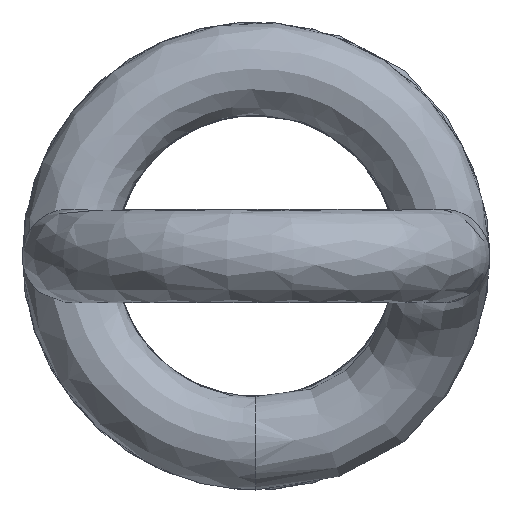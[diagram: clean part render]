
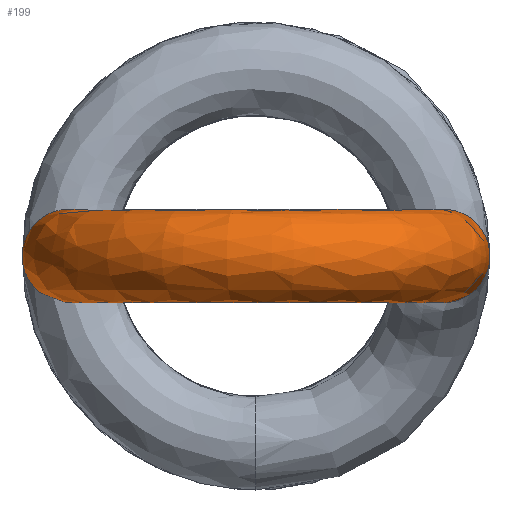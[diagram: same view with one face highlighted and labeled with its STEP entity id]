
A CAD part, front view. The second image highlights one B-rep face of the part: STEP entity #199.
In plain terms, the highlighted free-form (B-spline) face has degree [2, 2] with [9, 7] control points.
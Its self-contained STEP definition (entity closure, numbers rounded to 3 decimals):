
#15=(
BOUNDED_SURFACE()
B_SPLINE_SURFACE(2,2,((#798,#799,#800,#801,#802,#803,#804),(#805,#806,#807,
#808,#809,#810,#811),(#812,#813,#814,#815,#816,#817,#818),(#819,#820,#821,
#822,#823,#824,#825),(#826,#827,#828,#829,#830,#831,#832),(#833,#834,#835,
#836,#837,#838,#839),(#840,#841,#842,#843,#844,#845,#846),(#847,#848,#849,
#850,#851,#852,#853),(#854,#855,#856,#857,#858,#859,#860)),
 .UNSPECIFIED.,.T.,.F.,.F.)
B_SPLINE_SURFACE_WITH_KNOTS((3,2,2,2,3),(3,2,2,3),(0.,1.571,3.142,
4.712,6.283),(0.,1.131,2.261,
3.392),.UNSPECIFIED.)
GEOMETRIC_REPRESENTATION_ITEM()
RATIONAL_B_SPLINE_SURFACE(((1.,0.844,1.,0.844,1.,
0.844,1.),(0.707,0.597,0.707,
0.597,0.707,0.597,0.707),
(1.,0.844,1.,0.844,1.,0.844,1.),(0.707,
0.597,0.707,0.597,0.707,0.597,
0.707),(1.,0.844,1.,0.844,1.,0.844,
1.),(0.707,0.597,0.707,0.597,
0.707,0.597,0.707),(1.,0.844,
1.,0.844,1.,0.844,1.),(0.707,0.597,
0.707,0.597,0.707,0.597,
0.707),(1.,0.844,1.,0.844,1.,0.844,
1.)))
REPRESENTATION_ITEM('')
SURFACE()
);
#22=CIRCLE('',#234,1.);
#23=CIRCLE('',#235,3.574);
#24=CIRCLE('',#236,1.);
#37=FACE_OUTER_BOUND('',#48,.T.);
#48=EDGE_LOOP('',(#142,#143,#144,#145));
#85=VERTEX_POINT('',#729);
#88=VERTEX_POINT('',#861);
#106=EDGE_CURVE('',#85,#85,#22,.T.);
#109=EDGE_CURVE('',#85,#88,#23,.T.);
#110=EDGE_CURVE('',#88,#88,#24,.T.);
#142=ORIENTED_EDGE('',*,*,#106,.T.);
#143=ORIENTED_EDGE('',*,*,#109,.T.);
#144=ORIENTED_EDGE('',*,*,#110,.F.);
#145=ORIENTED_EDGE('',*,*,#109,.F.);
#199=ADVANCED_FACE('',(#37),#15,.T.);
#234=AXIS2_PLACEMENT_3D('',#740,#256,#257);
#235=AXIS2_PLACEMENT_3D('',#862,#258,#259);
#236=AXIS2_PLACEMENT_3D('',#863,#260,#261);
#256=DIRECTION('center_axis',(0.,-1.,0.));
#257=DIRECTION('ref_axis',(-0.426,0.,-0.905));
#258=DIRECTION('center_axis',(0.,0.,
-1.));
#259=DIRECTION('ref_axis',(1.,0.,0.));
#260=DIRECTION('center_axis',(0.248,0.969,0.));
#261=DIRECTION('ref_axis',(0.412,-0.106,-0.905));
#729=CARTESIAN_POINT('',(3.574,-21.6,-0.905));
#740=CARTESIAN_POINT('Origin',(4.,-21.6,0.));
#798=CARTESIAN_POINT('Ctrl Pts',(3.574,-21.6,-0.905));
#799=CARTESIAN_POINT('Ctrl Pts',(3.574,-23.868,-0.905));
#800=CARTESIAN_POINT('Ctrl Pts',(1.523,-24.834,-0.905));
#801=CARTESIAN_POINT('Ctrl Pts',(-0.529,-25.8,-0.905));
#802=CARTESIAN_POINT('Ctrl Pts',(-2.277,-24.355,-0.905));
#803=CARTESIAN_POINT('Ctrl Pts',(-4.025,-22.91,-0.905));
#804=CARTESIAN_POINT('Ctrl Pts',(-3.463,-20.713,-0.905));
#805=CARTESIAN_POINT('Ctrl Pts',(4.479,-21.6,-1.33));
#806=CARTESIAN_POINT('Ctrl Pts',(4.479,-24.442,-1.33));
#807=CARTESIAN_POINT('Ctrl Pts',(1.908,-25.653,-1.33));
#808=CARTESIAN_POINT('Ctrl Pts',(-0.663,-26.863,-1.33));
#809=CARTESIAN_POINT('Ctrl Pts',(-2.854,-25.053,-1.33));
#810=CARTESIAN_POINT('Ctrl Pts',(-5.044,-23.242,-1.33));
#811=CARTESIAN_POINT('Ctrl Pts',(-4.339,-20.489,-1.33));
#812=CARTESIAN_POINT('Ctrl Pts',(4.905,-21.6,-0.426));
#813=CARTESIAN_POINT('Ctrl Pts',(4.905,-24.712,-0.426));
#814=CARTESIAN_POINT('Ctrl Pts',(2.089,-26.038,-0.426));
#815=CARTESIAN_POINT('Ctrl Pts',(-0.726,-27.363,-0.426));
#816=CARTESIAN_POINT('Ctrl Pts',(-3.125,-25.381,-0.426));
#817=CARTESIAN_POINT('Ctrl Pts',(-5.524,-23.398,-0.426));
#818=CARTESIAN_POINT('Ctrl Pts',(-4.752,-20.383,-0.426));
#819=CARTESIAN_POINT('Ctrl Pts',(5.33,-21.6,0.479));
#820=CARTESIAN_POINT('Ctrl Pts',(5.33,-24.982,0.479));
#821=CARTESIAN_POINT('Ctrl Pts',(2.271,-26.423,0.479));
#822=CARTESIAN_POINT('Ctrl Pts',(-0.789,-27.863,0.479));
#823=CARTESIAN_POINT('Ctrl Pts',(-3.396,-25.709,0.479));
#824=CARTESIAN_POINT('Ctrl Pts',(-6.003,-23.554,0.479));
#825=CARTESIAN_POINT('Ctrl Pts',(-5.164,-20.278,0.479));
#826=CARTESIAN_POINT('Ctrl Pts',(4.426,-21.6,0.905));
#827=CARTESIAN_POINT('Ctrl Pts',(4.426,-24.408,0.905));
#828=CARTESIAN_POINT('Ctrl Pts',(1.885,-25.604,0.905));
#829=CARTESIAN_POINT('Ctrl Pts',(-0.655,-26.8,0.905));
#830=CARTESIAN_POINT('Ctrl Pts',(-2.819,-25.011,0.905));
#831=CARTESIAN_POINT('Ctrl Pts',(-4.984,-23.222,0.905));
#832=CARTESIAN_POINT('Ctrl Pts',(-4.287,-20.502,0.905));
#833=CARTESIAN_POINT('Ctrl Pts',(3.521,-21.6,1.33));
#834=CARTESIAN_POINT('Ctrl Pts',(3.521,-23.834,1.33));
#835=CARTESIAN_POINT('Ctrl Pts',(1.5,-24.785,1.33));
#836=CARTESIAN_POINT('Ctrl Pts',(-0.521,-25.737,1.33));
#837=CARTESIAN_POINT('Ctrl Pts',(-2.243,-24.314,1.33));
#838=CARTESIAN_POINT('Ctrl Pts',(-3.965,-22.891,1.33));
#839=CARTESIAN_POINT('Ctrl Pts',(-3.411,-20.727,1.33));
#840=CARTESIAN_POINT('Ctrl Pts',(3.095,-21.6,0.426));
#841=CARTESIAN_POINT('Ctrl Pts',(3.095,-23.564,0.426));
#842=CARTESIAN_POINT('Ctrl Pts',(1.318,-24.4,0.426));
#843=CARTESIAN_POINT('Ctrl Pts',(-0.458,-25.237,0.426));
#844=CARTESIAN_POINT('Ctrl Pts',(-1.972,-23.986,0.426));
#845=CARTESIAN_POINT('Ctrl Pts',(-3.485,-22.735,0.426));
#846=CARTESIAN_POINT('Ctrl Pts',(-2.998,-20.832,0.426));
#847=CARTESIAN_POINT('Ctrl Pts',(2.67,-21.6,-0.479));
#848=CARTESIAN_POINT('Ctrl Pts',(2.67,-23.294,-0.479));
#849=CARTESIAN_POINT('Ctrl Pts',(1.137,-24.015,-0.479));
#850=CARTESIAN_POINT('Ctrl Pts',(-0.395,-24.737,-0.479));
#851=CARTESIAN_POINT('Ctrl Pts',(-1.701,-23.658,-0.479));
#852=CARTESIAN_POINT('Ctrl Pts',(-3.006,-22.579,-0.479));
#853=CARTESIAN_POINT('Ctrl Pts',(-2.586,-20.938,-0.479));
#854=CARTESIAN_POINT('Ctrl Pts',(3.574,-21.6,-0.905));
#855=CARTESIAN_POINT('Ctrl Pts',(3.574,-23.868,-0.905));
#856=CARTESIAN_POINT('Ctrl Pts',(1.523,-24.834,-0.905));
#857=CARTESIAN_POINT('Ctrl Pts',(-0.529,-25.8,-0.905));
#858=CARTESIAN_POINT('Ctrl Pts',(-2.277,-24.355,-0.905));
#859=CARTESIAN_POINT('Ctrl Pts',(-4.025,-22.91,-0.905));
#860=CARTESIAN_POINT('Ctrl Pts',(-3.463,-20.713,-0.905));
#861=CARTESIAN_POINT('',(-3.463,-20.713,-0.905));
#862=CARTESIAN_POINT('Origin',(0.,-21.6,-0.905));
#863=CARTESIAN_POINT('Origin',(-3.875,-20.608,0.));
